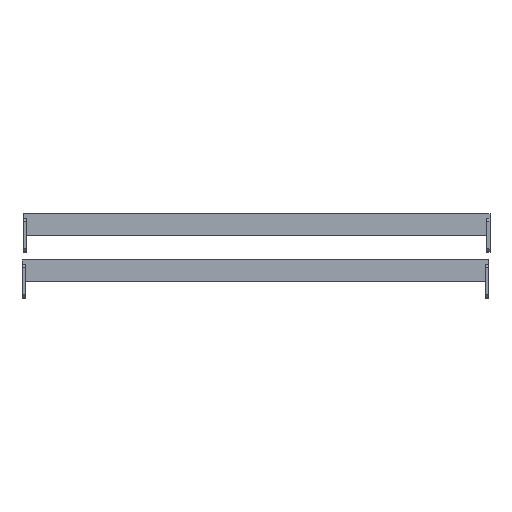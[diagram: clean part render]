
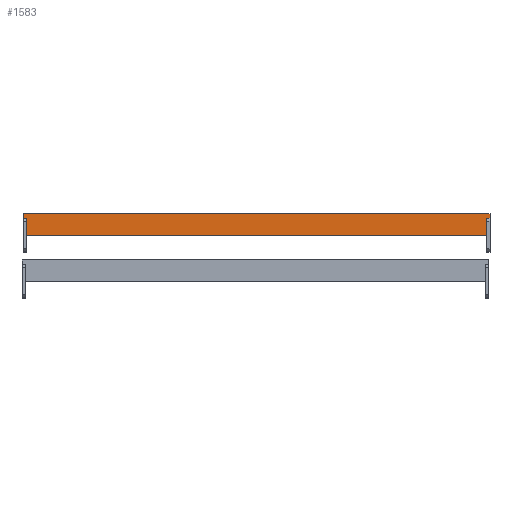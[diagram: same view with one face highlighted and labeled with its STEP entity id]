
A CAD part, top view. The second image highlights one B-rep face of the part: STEP entity #1583.
In plain terms, the highlighted planar face has unit normal (0, 0, 1).
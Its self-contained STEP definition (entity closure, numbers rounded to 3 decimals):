
#192 = ORIENTED_EDGE ( 'NONE', *, *, #1762, .T. ) ;
#343 = CARTESIAN_POINT ( 'NONE',  ( -171.939, 0., 46. ) ) ;
#539 = VERTEX_POINT ( 'NONE', #1307 ) ;
#549 = PLANE ( 'NONE',  #1466 ) ;
#568 = EDGE_CURVE ( 'NONE', #5305, #2261, #2856, .T. ) ;
#603 = DIRECTION ( 'NONE',  ( 0., -1., 0. ) ) ;
#661 = EDGE_CURVE ( 'NONE', #5275, #5059, #2651, .T. ) ;
#770 = CARTESIAN_POINT ( 'NONE',  ( 151.5, -3., 46. ) ) ;
#839 = VECTOR ( 'NONE', #4424, 1000. ) ;
#927 = DIRECTION ( 'NONE',  ( 0., 1., 0. ) ) ;
#1187 = DIRECTION ( 'NONE',  ( 0., -1., 0. ) ) ;
#1217 = CARTESIAN_POINT ( 'NONE',  ( 0., 0., 46. ) ) ;
#1307 = CARTESIAN_POINT ( 'NONE',  ( -151.5, -14., 46. ) ) ;
#1322 = EDGE_CURVE ( 'NONE', #2261, #5275, #5500, .T. ) ;
#1466 = AXIS2_PLACEMENT_3D ( 'NONE', #1217, #2776, #1187 ) ;
#1583 = ADVANCED_FACE ( 'NONE', ( #1631 ), #549, .F. ) ;
#1631 = FACE_OUTER_BOUND ( 'NONE', #1702, .T. ) ;
#1702 = EDGE_LOOP ( 'NONE', ( #3269, #4432, #4778, #5641, #192, #3590, #4127, #5399 ) ) ;
#1724 = EDGE_CURVE ( 'NONE', #3701, #5305, #6520, .T. ) ;
#1762 = EDGE_CURVE ( 'NONE', #3701, #5328, #4090, .T. ) ;
#1782 = CARTESIAN_POINT ( 'NONE',  ( -171.939, -14., 46. ) ) ;
#1822 = DIRECTION ( 'NONE',  ( 1., 0., 0. ) ) ;
#1858 = DIRECTION ( 'NONE',  ( 1., 0., 0. ) ) ;
#1873 = CARTESIAN_POINT ( 'NONE',  ( -153.5, -3., 46. ) ) ;
#1891 = VECTOR ( 'NONE', #1822, 1000. ) ;
#1937 = VECTOR ( 'NONE', #603, 1000. ) ;
#1941 = DIRECTION ( 'NONE',  ( -1., 0., 0. ) ) ;
#2005 = CARTESIAN_POINT ( 'NONE',  ( -151.5, -3., 46. ) ) ;
#2129 = EDGE_CURVE ( 'NONE', #539, #5059, #5356, .T. ) ;
#2261 = VERTEX_POINT ( 'NONE', #2455 ) ;
#2455 = CARTESIAN_POINT ( 'NONE',  ( 153.5, -3., 46. ) ) ;
#2651 = LINE ( 'NONE', #4721, #1937 ) ;
#2660 = VECTOR ( 'NONE', #5561, 1000. ) ;
#2776 = DIRECTION ( 'NONE',  ( 0., 0., -1. ) ) ;
#2856 = LINE ( 'NONE', #6605, #839 ) ;
#2946 = LINE ( 'NONE', #2005, #3013 ) ;
#3013 = VECTOR ( 'NONE', #1941, 1000. ) ;
#3135 = CARTESIAN_POINT ( 'NONE',  ( -151.5, 0., 46. ) ) ;
#3220 = CARTESIAN_POINT ( 'NONE',  ( -153.5, 0., 46. ) ) ;
#3269 = ORIENTED_EDGE ( 'NONE', *, *, #661, .F. ) ;
#3536 = VERTEX_POINT ( 'NONE', #6155 ) ;
#3590 = ORIENTED_EDGE ( 'NONE', *, *, #6715, .F. ) ;
#3701 = VERTEX_POINT ( 'NONE', #3220 ) ;
#3734 = VECTOR ( 'NONE', #6013, 1000. ) ;
#4090 = LINE ( 'NONE', #5047, #2660 ) ;
#4127 = ORIENTED_EDGE ( 'NONE', *, *, #6002, .F. ) ;
#4424 = DIRECTION ( 'NONE',  ( 0., -1., 0. ) ) ;
#4432 = ORIENTED_EDGE ( 'NONE', *, *, #1322, .F. ) ;
#4663 = LINE ( 'NONE', #3135, #4807 ) ;
#4721 = CARTESIAN_POINT ( 'NONE',  ( 151.5, 0., 46. ) ) ;
#4778 = ORIENTED_EDGE ( 'NONE', *, *, #568, .F. ) ;
#4807 = VECTOR ( 'NONE', #927, 1000. ) ;
#5032 = CARTESIAN_POINT ( 'NONE',  ( 151.5, -3., 46. ) ) ;
#5047 = CARTESIAN_POINT ( 'NONE',  ( -153.5, 0., 46. ) ) ;
#5059 = VERTEX_POINT ( 'NONE', #5565 ) ;
#5275 = VERTEX_POINT ( 'NONE', #5032 ) ;
#5305 = VERTEX_POINT ( 'NONE', #5513 ) ;
#5328 = VERTEX_POINT ( 'NONE', #1873 ) ;
#5356 = LINE ( 'NONE', #1782, #1891 ) ;
#5399 = ORIENTED_EDGE ( 'NONE', *, *, #2129, .T. ) ;
#5500 = LINE ( 'NONE', #770, #3734 ) ;
#5513 = CARTESIAN_POINT ( 'NONE',  ( 153.5, 0., 46. ) ) ;
#5561 = DIRECTION ( 'NONE',  ( 0., -1., 0. ) ) ;
#5565 = CARTESIAN_POINT ( 'NONE',  ( 151.5, -14., 46. ) ) ;
#5641 = ORIENTED_EDGE ( 'NONE', *, *, #1724, .F. ) ;
#6002 = EDGE_CURVE ( 'NONE', #539, #3536, #4663, .T. ) ;
#6013 = DIRECTION ( 'NONE',  ( -1., 0., 0. ) ) ;
#6155 = CARTESIAN_POINT ( 'NONE',  ( -151.5, -3., 46. ) ) ;
#6473 = VECTOR ( 'NONE', #1858, 1000. ) ;
#6520 = LINE ( 'NONE', #343, #6473 ) ;
#6605 = CARTESIAN_POINT ( 'NONE',  ( 153.5, 0., 46. ) ) ;
#6715 = EDGE_CURVE ( 'NONE', #3536, #5328, #2946, .T. ) ;
